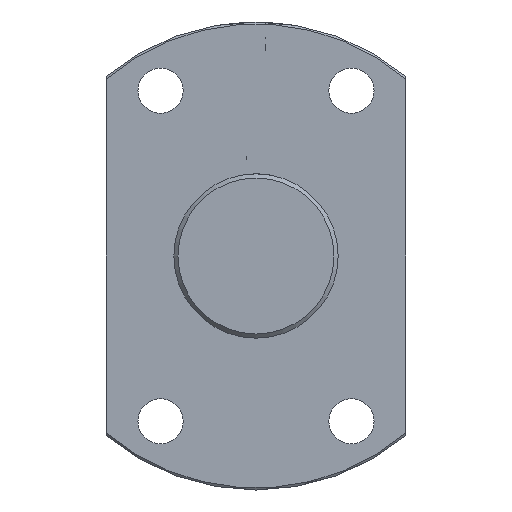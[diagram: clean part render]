
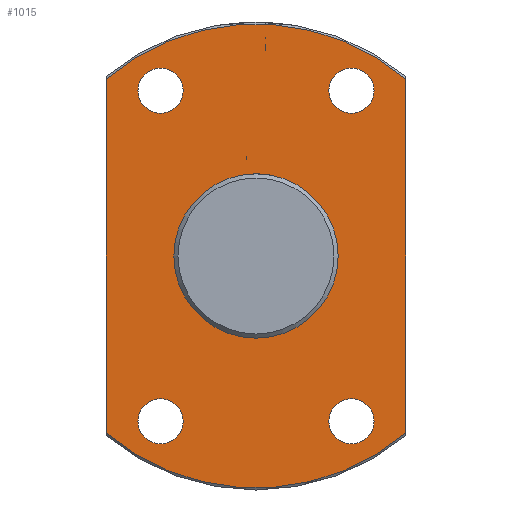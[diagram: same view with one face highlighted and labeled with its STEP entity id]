
A CAD part, left-side view. The second image highlights one B-rep face of the part: STEP entity #1015.
In plain terms, the highlighted planar face has unit normal (-1, 0, 0).
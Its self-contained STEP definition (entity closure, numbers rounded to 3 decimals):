
#315=CARTESIAN_POINT('',(858.444,-36.5,43.128));
#316=VERTEX_POINT('',#315);
#341=CARTESIAN_POINT('',(858.444,36.5,43.128));
#342=VERTEX_POINT('',#341);
#356=CARTESIAN_POINT('',(858.444,0.0,0.0));
#357=DIRECTION('',(1.0,0.0,0.0));
#358=DIRECTION('',(0.0,1.0,0.0));
#359=AXIS2_PLACEMENT_3D('',#356,#357,#358);
#360=CIRCLE('',#359,56.5);
#361=EDGE_CURVE('',#342,#316,#360,.T.);
#478=CARTESIAN_POINT('',(858.444,-36.5,-43.128));
#479=VERTEX_POINT('',#478);
#480=CARTESIAN_POINT('',(858.444,-36.5,43.128));
#481=DIRECTION('',(0.0,0.0,-1.0));
#482=VECTOR('',#481,86.255);
#483=LINE('',#480,#482);
#484=EDGE_CURVE('',#316,#479,#483,.T.);
#560=CARTESIAN_POINT('',(858.444,36.5,-43.128));
#561=VERTEX_POINT('',#560);
#585=CARTESIAN_POINT('',(858.444,0.0,0.0));
#586=DIRECTION('',(1.0,0.0,0.0));
#587=DIRECTION('',(0.0,1.0,0.0));
#588=AXIS2_PLACEMENT_3D('',#585,#586,#587);
#589=CIRCLE('',#588,56.5);
#590=EDGE_CURVE('',#479,#561,#589,.T.);
#671=CARTESIAN_POINT('',(858.444,36.5,-43.128));
#672=DIRECTION('',(0.0,0.0,1.0));
#673=VECTOR('',#672,86.255);
#674=LINE('',#671,#673);
#675=EDGE_CURVE('',#561,#342,#674,.T.);
#897=CARTESIAN_POINT('',(858.444,20.0,0.));
#898=VERTEX_POINT('',#897);
#899=CARTESIAN_POINT('',(858.444,0.0,0.0));
#900=DIRECTION('',(1.0,0.0,0.0));
#901=DIRECTION('',(0.0,-1.0,0.0));
#902=AXIS2_PLACEMENT_3D('',#899,#900,#901);
#903=CIRCLE('',#902,20.0);
#904=EDGE_CURVE('',#898,#898,#903,.T.);
#917=CARTESIAN_POINT('',(858.444,28.75,-40.27));
#918=VERTEX_POINT('',#917);
#919=CARTESIAN_POINT('',(858.444,23.25,-40.27));
#920=DIRECTION('',(1.0,0.0,0.0));
#921=DIRECTION('',(0.0,1.0,0.0));
#922=AXIS2_PLACEMENT_3D('',#919,#920,#921);
#923=CIRCLE('',#922,5.5);
#924=EDGE_CURVE('',#918,#918,#923,.T.);
#937=CARTESIAN_POINT('',(858.444,-17.75,40.27));
#938=VERTEX_POINT('',#937);
#939=CARTESIAN_POINT('',(858.444,-23.25,40.27));
#940=DIRECTION('',(1.0,0.0,0.0));
#941=DIRECTION('',(0.0,1.0,0.0));
#942=AXIS2_PLACEMENT_3D('',#939,#940,#941);
#943=CIRCLE('',#942,5.5);
#944=EDGE_CURVE('',#938,#938,#943,.T.);
#957=CARTESIAN_POINT('',(858.444,28.75,40.27));
#958=VERTEX_POINT('',#957);
#959=CARTESIAN_POINT('',(858.444,23.25,40.27));
#960=DIRECTION('',(1.0,0.0,0.0));
#961=DIRECTION('',(0.0,1.0,0.0));
#962=AXIS2_PLACEMENT_3D('',#959,#960,#961);
#963=CIRCLE('',#962,5.5);
#964=EDGE_CURVE('',#958,#958,#963,.T.);
#977=CARTESIAN_POINT('',(858.444,-17.75,-40.27));
#978=VERTEX_POINT('',#977);
#979=CARTESIAN_POINT('',(858.444,-23.25,-40.27));
#980=DIRECTION('',(1.0,0.0,0.0));
#981=DIRECTION('',(0.0,1.0,0.0));
#982=AXIS2_PLACEMENT_3D('',#979,#980,#981);
#983=CIRCLE('',#982,5.5);
#984=EDGE_CURVE('',#978,#978,#983,.T.);
#989=CARTESIAN_POINT('',(858.444,0.0,0.0));
#990=DIRECTION('',(-1.0,0.0,0.0));
#991=DIRECTION('',(0.0,0.0,1.0));
#992=AXIS2_PLACEMENT_3D('',#989,#990,#991);
#993=PLANE('',#992);
#994=ORIENTED_EDGE('',*,*,#361,.F.);
#995=ORIENTED_EDGE('',*,*,#675,.F.);
#996=ORIENTED_EDGE('',*,*,#590,.F.);
#997=ORIENTED_EDGE('',*,*,#484,.F.);
#998=EDGE_LOOP('',(#994,#995,#996,#997));
#999=FACE_OUTER_BOUND('',#998,.T.);
#1000=ORIENTED_EDGE('',*,*,#904,.T.);
#1001=EDGE_LOOP('',(#1000));
#1002=FACE_BOUND('',#1001,.T.);
#1003=ORIENTED_EDGE('',*,*,#924,.T.);
#1004=EDGE_LOOP('',(#1003));
#1005=FACE_BOUND('',#1004,.T.);
#1006=ORIENTED_EDGE('',*,*,#944,.T.);
#1007=EDGE_LOOP('',(#1006));
#1008=FACE_BOUND('',#1007,.T.);
#1009=ORIENTED_EDGE('',*,*,#964,.T.);
#1010=EDGE_LOOP('',(#1009));
#1011=FACE_BOUND('',#1010,.T.);
#1012=ORIENTED_EDGE('',*,*,#984,.T.);
#1013=EDGE_LOOP('',(#1012));
#1014=FACE_BOUND('',#1013,.T.);
#1015=ADVANCED_FACE('',(#999,#1002,#1005,#1008,#1011,#1014),#993,.T.);
